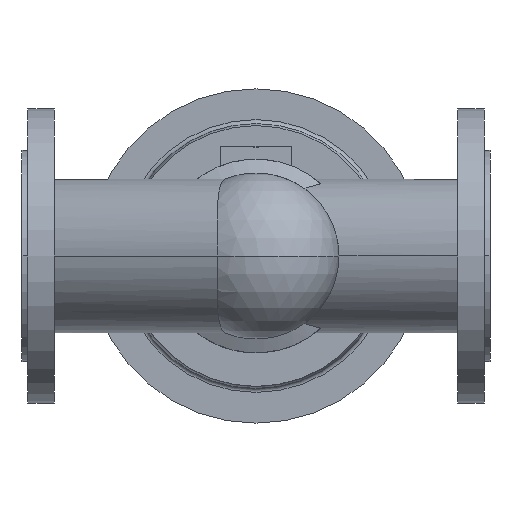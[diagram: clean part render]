
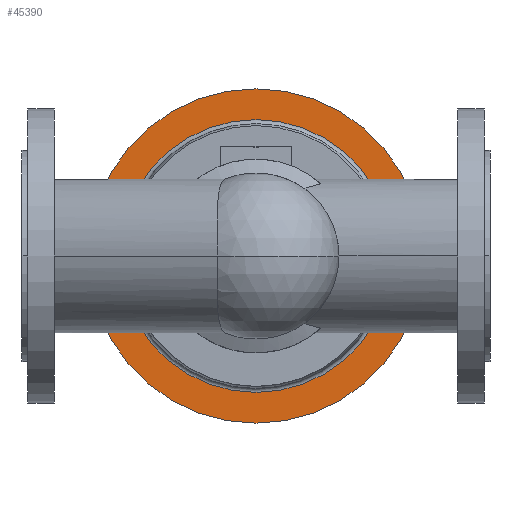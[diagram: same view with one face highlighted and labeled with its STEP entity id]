
A CAD part, front view. The second image highlights one B-rep face of the part: STEP entity #45390.
In plain terms, the highlighted planar face has unit normal (0, -1, 0).
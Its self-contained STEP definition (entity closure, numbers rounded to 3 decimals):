
#33930=CARTESIAN_POINT('',(300.,444.,0.));
#33940=VERTEX_POINT('',#33930);
#33970=CARTESIAN_POINT('',(175.,444.,0.));
#33980=DIRECTION('',(0.,1.,0.));
#33990=DIRECTION('',(1.,0.,0.));
#34000=AXIS2_PLACEMENT_3D('',#33970,#33980,#33990);
#34010=CIRCLE('',#34000,125.);
#34020=CARTESIAN_POINT('',(50.,444.,0.));
#34030=VERTEX_POINT('',#34020);
#34040=EDGE_CURVE('',#34030,#33940,#34010,.T.);
#34290=CARTESIAN_POINT('',(175.,444.,0.));
#34300=DIRECTION('',(0.,1.,0.));
#34310=DIRECTION('',(1.,0.,0.));
#34320=AXIS2_PLACEMENT_3D('',#34290,#34300,#34310);
#34330=CIRCLE('',#34320,102.);
#34340=CARTESIAN_POINT('',(175.,444.,102.));
#34350=VERTEX_POINT('',#34340);
#34360=CARTESIAN_POINT('',(277.,444.,0.));
#34370=VERTEX_POINT('',#34360);
#34380=EDGE_CURVE('',#34350,#34370,#34330,.T.);
#34630=CARTESIAN_POINT('',(73.,444.,0.));
#34640=VERTEX_POINT('',#34630);
#34670=EDGE_CURVE('',#34640,#34350,#34330,.T.);
#45230=CARTESIAN_POINT('',(288.5,444.,0.));
#45240=DIRECTION('',(0.,-1.,0.));
#45250=DIRECTION('',(-1.,0.,0.));
#45260=AXIS2_PLACEMENT_3D('',#45230,#45240,#45250);
#45270=PLANE('',#45260);
#45280=ORIENTED_EDGE('',*,*,#34040,.F.);
#45290=EDGE_CURVE('',#33940,#34030,#34010,.T.);
#45300=ORIENTED_EDGE('',*,*,#45290,.F.);
#45310=EDGE_LOOP('',(#45300,#45280));
#45320=FACE_OUTER_BOUND('',#45310,.T.);
#45330=EDGE_CURVE('',#34370,#34640,#34330,.T.);
#45340=ORIENTED_EDGE('',*,*,#45330,.T.);
#45350=ORIENTED_EDGE('',*,*,#34380,.T.);
#45360=ORIENTED_EDGE('',*,*,#34670,.T.);
#45370=EDGE_LOOP('',(#45360,#45350,#45340));
#45380=FACE_BOUND('',#45370,.T.);
#45390=ADVANCED_FACE('',(#45320,#45380),#45270,.T.);
